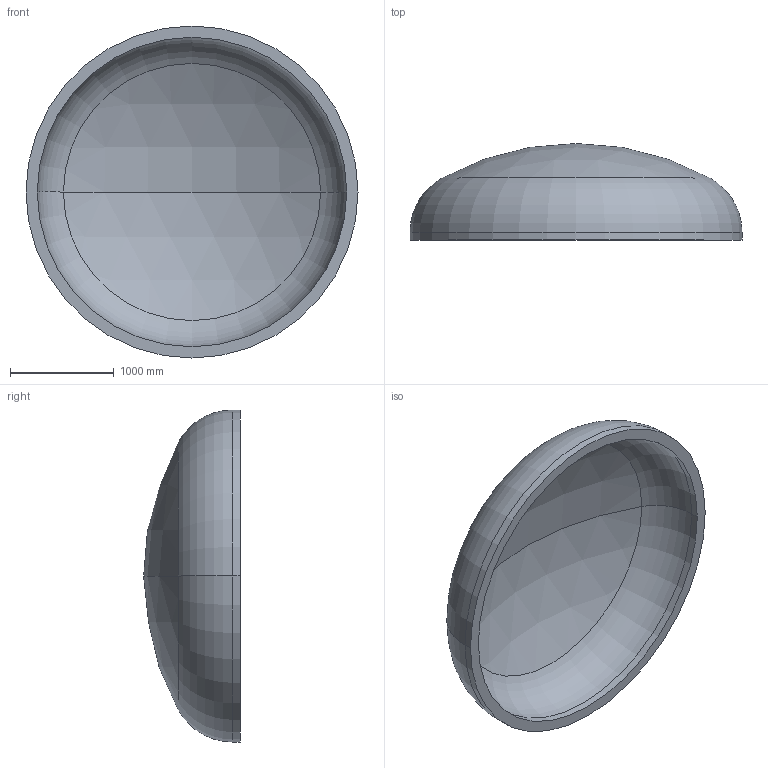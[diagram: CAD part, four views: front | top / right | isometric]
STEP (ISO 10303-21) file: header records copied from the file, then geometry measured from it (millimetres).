
FILE_DESCRIPTION (( 'STEP AP203' ), '1' );
FILE_NAME ('DIN 28013 Korbbogenform_-_Boden DIN 28013 - 3200 x 75 - I - s=108.step', '2016-07-01T19:00:54', ( '' ), ( '' ), 'SwSTEP 2.0', 'SolidWorks 2013', '' );
FILE_SCHEMA (( 'CONFIG_CONTROL_DESIGN' ));
Length unit declared in the file: millimetre
Products named in the file (1): DIN 28013 Korbbogenform_-_Boden DIN 28013 - 3200 x 75 - I - s=108
Bounding box: 3200 x 931.68 x 3200 mm (x, y, z)
Volume: 1228611391.2 mm3; surface area: 23825575.2 mm2
Topology: 1 solids, 1 shells, 13 faces, 24 edges, 14 vertices
Faces by surface type: torus 4, cylinder 4, sphere 4, plane 1
Entity records: 407 total; most frequent: DIRECTION 72, CARTESIAN_POINT 52, ORIENTED_EDGE 48, AXIS2_PLACEMENT_3D 34, EDGE_CURVE 24, CIRCLE 20, VERTEX_POINT 14, EDGE_LOOP 14
